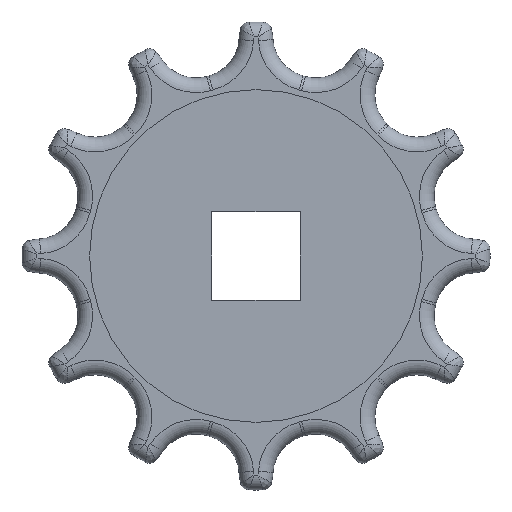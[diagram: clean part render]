
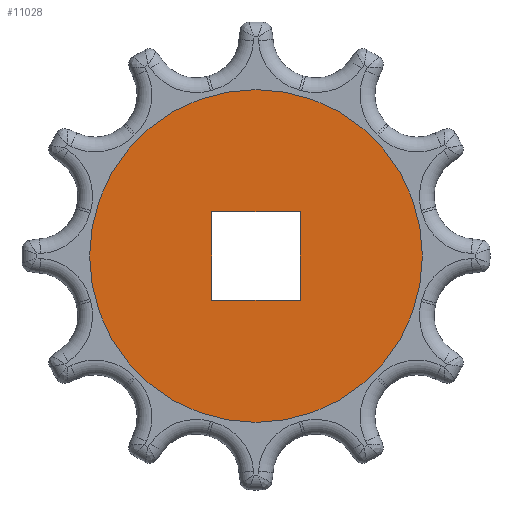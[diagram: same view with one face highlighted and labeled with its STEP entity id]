
A CAD part, left-side view. The second image highlights one B-rep face of the part: STEP entity #11028.
In plain terms, the highlighted planar face has unit normal (-1, 0, 0).
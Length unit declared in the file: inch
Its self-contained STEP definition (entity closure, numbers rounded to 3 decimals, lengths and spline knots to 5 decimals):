
#3709=CARTESIAN_POINT('',(-0.75,0.,0.));
#3710=DIRECTION('',(1.,0.,0.));
#3711=DIRECTION('',(0.,0.,-1.));
#3712=AXIS2_PLACEMENT_3D('',#3709,#3710,#3711);
#3714=CARTESIAN_POINT('',(-0.75,0.,0.));
#3715=DIRECTION('',(1.,0.,0.));
#3716=DIRECTION('',(0.,0.,1.));
#3717=AXIS2_PLACEMENT_3D('',#3714,#3715,#3716);
#3719=DIRECTION('',(0.,0.,-1.));
#3720=VECTOR('',#3719,1.5);
#3721=CARTESIAN_POINT('',(-0.75,-0.75,0.75));
#3722=LINE('',#3721,#3720);
#3723=DIRECTION('',(0.,-1.,0.));
#3724=VECTOR('',#3723,1.5);
#3725=CARTESIAN_POINT('',(-0.75,0.75,0.75));
#3726=LINE('',#3725,#3724);
#3727=DIRECTION('',(0.,0.,1.));
#3728=VECTOR('',#3727,1.5);
#3729=CARTESIAN_POINT('',(-0.75,0.75,-0.75));
#3730=LINE('',#3729,#3728);
#3731=DIRECTION('',(0.,1.,0.));
#3732=VECTOR('',#3731,1.5);
#3733=CARTESIAN_POINT('',(-0.75,-0.75,-0.75));
#3734=LINE('',#3733,#3732);
#3778=CARTESIAN_POINT('',(-0.75,-0.75,0.75));
#3780=VERTEX_POINT('',#3778);
#3782=CARTESIAN_POINT('',(-0.75,-0.75,-0.75));
#3784=VERTEX_POINT('',#3782);
#3786=CARTESIAN_POINT('',(-0.75,0.75,-0.75));
#3788=VERTEX_POINT('',#3786);
#3790=CARTESIAN_POINT('',(-0.75,0.75,0.75));
#3792=VERTEX_POINT('',#3790);
#3793=CARTESIAN_POINT('',(-0.75,0.,-2.83205));
#3794=CARTESIAN_POINT('',(-0.75,0.,2.83205));
#3795=VERTEX_POINT('',#3793);
#3796=VERTEX_POINT('',#3794);
#11009=CARTESIAN_POINT('',(-0.75,0.,0.));
#11010=DIRECTION('',(1.,0.,0.));
#11011=DIRECTION('',(0.,0.,-1.));
#11012=AXIS2_PLACEMENT_3D('',#11009,#11010,#11011);
#11013=PLANE('',#11012);
#11014=ORIENTED_EDGE('',*,*,#10961,.T.);
#11015=ORIENTED_EDGE('',*,*,#10990,.T.);
#11016=EDGE_LOOP('',(#11014,#11015));
#11017=FACE_OUTER_BOUND('',#11016,.F.);
#11019=ORIENTED_EDGE('',*,*,#11018,.F.);
#11021=ORIENTED_EDGE('',*,*,#11020,.F.);
#11023=ORIENTED_EDGE('',*,*,#11022,.F.);
#11025=ORIENTED_EDGE('',*,*,#11024,.F.);
#11026=EDGE_LOOP('',(#11019,#11021,#11023,#11025));
#11027=FACE_BOUND('',#11026,.F.);
#11028=ADVANCED_FACE('',(#11017,#11027),#11013,.F.);
#3713=CIRCLE('',#3712,2.83205);
#3718=CIRCLE('',#3717,2.83205);
#10961=EDGE_CURVE('',#3795,#3796,#3713,.T.);
#10990=EDGE_CURVE('',#3796,#3795,#3718,.T.);
#11018=EDGE_CURVE('',#3780,#3784,#3722,.T.);
#11020=EDGE_CURVE('',#3792,#3780,#3726,.T.);
#11022=EDGE_CURVE('',#3788,#3792,#3730,.T.);
#11024=EDGE_CURVE('',#3784,#3788,#3734,.T.);
